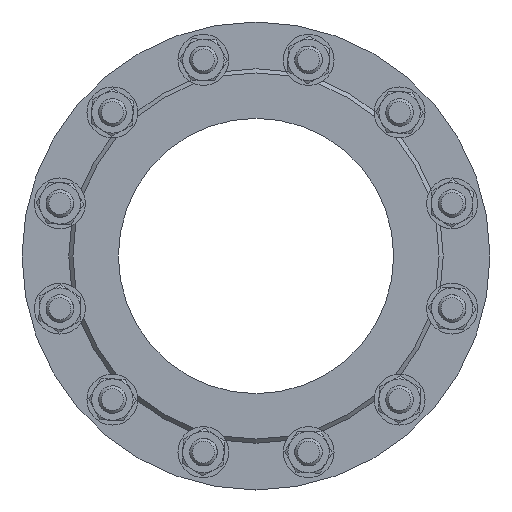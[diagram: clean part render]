
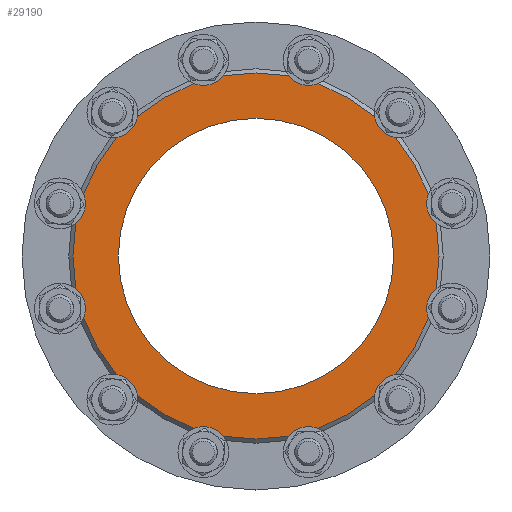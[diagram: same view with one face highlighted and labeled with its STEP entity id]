
A CAD part, left-side view. The second image highlights one B-rep face of the part: STEP entity #29190.
In plain terms, the highlighted planar face has unit normal (-1, 0, 0).
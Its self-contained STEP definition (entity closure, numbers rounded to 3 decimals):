
#2414 = FACE_OUTER_BOUND ( 'NONE', #34658, .T. ) ;
#2706 = CARTESIAN_POINT ( 'NONE',  ( -13., 0., 0. ) ) ;
#8291 = EDGE_CURVE ( 'NONE', #11904, #11904, #39934, .T. ) ;
#11904 = VERTEX_POINT ( 'NONE', #35579 ) ;
#14591 = DIRECTION ( 'NONE',  ( 0., 0., -1. ) ) ;
#14617 = DIRECTION ( 'NONE',  ( 0., -1., 0. ) ) ;
#15856 = FACE_BOUND ( 'NONE', #36064, .T. ) ;
#16726 = DIRECTION ( 'NONE',  ( 0., 1., 0. ) ) ;
#18977 = CARTESIAN_POINT ( 'NONE',  ( -13., -133., 0. ) ) ;
#20836 = AXIS2_PLACEMENT_3D ( 'NONE', #36635, #30137, #16726 ) ;
#25115 = EDGE_CURVE ( 'NONE', #40435, #40435, #43794, .T. ) ;
#26886 = CARTESIAN_POINT ( 'NONE',  ( -13., 0., 0. ) ) ;
#29190 = ADVANCED_FACE ( 'NONE', ( #15856, #2414 ), #29907, .F. ) ;
#29907 = PLANE ( 'NONE',  #20836 ) ;
#30137 = DIRECTION ( 'NONE',  ( 1., 0., 0. ) ) ;
#31174 = ORIENTED_EDGE ( 'NONE', *, *, #25115, .T. ) ;
#34658 = EDGE_LOOP ( 'NONE', ( #31174 ) ) ;
#35579 = CARTESIAN_POINT ( 'NONE',  ( -13., 0., -100. ) ) ;
#36064 = EDGE_LOOP ( 'NONE', ( #41356 ) ) ;
#36635 = CARTESIAN_POINT ( 'NONE',  ( -13., 0., 100. ) ) ;
#38794 = AXIS2_PLACEMENT_3D ( 'NONE', #26886, #40555, #14617 ) ;
#39934 = CIRCLE ( 'NONE', #44218, 100. ) ;
#40435 = VERTEX_POINT ( 'NONE', #18977 ) ;
#40555 = DIRECTION ( 'NONE',  ( -1., 0., 0. ) ) ;
#41196 = DIRECTION ( 'NONE',  ( 1., 0., 0. ) ) ;
#41356 = ORIENTED_EDGE ( 'NONE', *, *, #8291, .T. ) ;
#43794 = CIRCLE ( 'NONE', #38794, 133. ) ;
#44218 = AXIS2_PLACEMENT_3D ( 'NONE', #2706, #41196, #14591 ) ;
